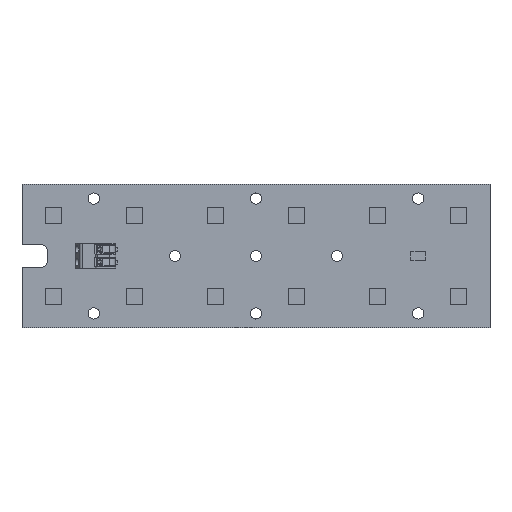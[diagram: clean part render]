
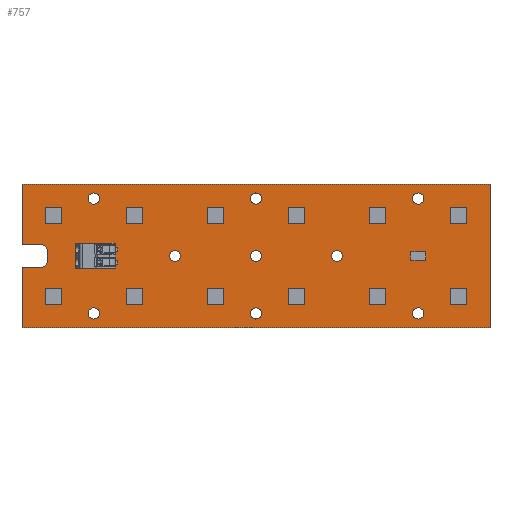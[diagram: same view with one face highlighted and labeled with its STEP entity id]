
A CAD part, top view. The second image highlights one B-rep face of the part: STEP entity #757.
In plain terms, the highlighted planar face has unit normal (0, 0, 1).
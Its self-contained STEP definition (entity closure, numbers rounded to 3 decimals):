
#108 = VERTEX_POINT('',#109);
#109 = CARTESIAN_POINT('',(-98.7,-22.5,1.6));
#115 = EDGE_CURVE('',#108,#116,#118,.T.);
#116 = VERTEX_POINT('',#117);
#117 = CARTESIAN_POINT('',(-98.7,-3.5,1.6));
#118 = LINE('',#119,#120);
#119 = CARTESIAN_POINT('',(-98.7,-22.5,1.6));
#120 = VECTOR('',#121,1.);
#121 = DIRECTION('',(0.,1.,0.));
#146 = EDGE_CURVE('',#116,#147,#149,.T.);
#147 = VERTEX_POINT('',#148);
#148 = CARTESIAN_POINT('',(-92.7,-3.5,1.6));
#149 = LINE('',#150,#151);
#150 = CARTESIAN_POINT('',(-98.7,-3.5,1.6));
#151 = VECTOR('',#152,1.);
#152 = DIRECTION('',(1.,0.,0.));
#177 = EDGE_CURVE('',#147,#178,#180,.T.);
#178 = VERTEX_POINT('',#179);
#179 = CARTESIAN_POINT('',(-90.7,-1.5,1.6));
#180 = CIRCLE('',#181,2.001);
#181 = AXIS2_PLACEMENT_3D('',#182,#183,#184);
#182 = CARTESIAN_POINT('',(-92.701,-1.499,1.6));
#183 = DIRECTION('',(0.,0.,1.));
#184 = DIRECTION('',(0.,-1.,0.));
#210 = EDGE_CURVE('',#178,#211,#213,.T.);
#211 = VERTEX_POINT('',#212);
#212 = CARTESIAN_POINT('',(-90.7,1.5,1.6));
#213 = LINE('',#214,#215);
#214 = CARTESIAN_POINT('',(-90.7,-1.5,1.6));
#215 = VECTOR('',#216,1.);
#216 = DIRECTION('',(0.,1.,0.));
#241 = EDGE_CURVE('',#211,#242,#244,.T.);
#242 = VERTEX_POINT('',#243);
#243 = CARTESIAN_POINT('',(-92.7,3.5,1.6));
#244 = CIRCLE('',#245,2.001);
#245 = AXIS2_PLACEMENT_3D('',#246,#247,#248);
#246 = CARTESIAN_POINT('',(-92.701,1.499,1.6));
#247 = DIRECTION('',(0.,0.,1.));
#248 = DIRECTION('',(1.,0.,-0.));
#274 = EDGE_CURVE('',#242,#275,#277,.T.);
#275 = VERTEX_POINT('',#276);
#276 = CARTESIAN_POINT('',(-98.7,3.5,1.6));
#277 = LINE('',#278,#279);
#278 = CARTESIAN_POINT('',(-92.7,3.5,1.6));
#279 = VECTOR('',#280,1.);
#280 = DIRECTION('',(-1.,0.,0.));
#305 = EDGE_CURVE('',#275,#306,#308,.T.);
#306 = VERTEX_POINT('',#307);
#307 = CARTESIAN_POINT('',(-98.7,22.5,1.6));
#308 = LINE('',#309,#310);
#309 = CARTESIAN_POINT('',(-98.7,3.5,1.6));
#310 = VECTOR('',#311,1.);
#311 = DIRECTION('',(0.,1.,0.));
#336 = EDGE_CURVE('',#306,#337,#339,.T.);
#337 = VERTEX_POINT('',#338);
#338 = CARTESIAN_POINT('',(47.9,22.5,1.6));
#339 = LINE('',#340,#341);
#340 = CARTESIAN_POINT('',(-98.7,22.5,1.6));
#341 = VECTOR('',#342,1.);
#342 = DIRECTION('',(1.,0.,0.));
#367 = EDGE_CURVE('',#337,#368,#370,.T.);
#368 = VERTEX_POINT('',#369);
#369 = CARTESIAN_POINT('',(47.9,-22.5,1.6));
#370 = LINE('',#371,#372);
#371 = CARTESIAN_POINT('',(47.9,22.5,1.6));
#372 = VECTOR('',#373,1.);
#373 = DIRECTION('',(0.,-1.,0.));
#398 = EDGE_CURVE('',#368,#108,#399,.T.);
#399 = LINE('',#400,#401);
#400 = CARTESIAN_POINT('',(47.9,-22.5,1.6));
#401 = VECTOR('',#402,1.);
#402 = DIRECTION('',(-1.,0.,0.));
#422 = VERTEX_POINT('',#423);
#423 = CARTESIAN_POINT('',(-74.45,-18.,1.6));
#429 = EDGE_CURVE('',#422,#422,#430,.T.);
#430 = CIRCLE('',#431,1.75);
#431 = AXIS2_PLACEMENT_3D('',#432,#433,#434);
#432 = CARTESIAN_POINT('',(-76.2,-18.,1.6));
#433 = DIRECTION('',(0.,0.,1.));
#434 = DIRECTION('',(1.,0.,-0.));
#455 = VERTEX_POINT('',#456);
#456 = CARTESIAN_POINT('',(-23.65,0.,1.6));
#462 = EDGE_CURVE('',#455,#455,#463,.T.);
#463 = CIRCLE('',#464,1.75);
#464 = AXIS2_PLACEMENT_3D('',#465,#466,#467);
#465 = CARTESIAN_POINT('',(-25.4,0.,1.6));
#466 = DIRECTION('',(0.,0.,1.));
#467 = DIRECTION('',(1.,0.,-0.));
#488 = VERTEX_POINT('',#489);
#489 = CARTESIAN_POINT('',(-74.45,18.,1.6));
#495 = EDGE_CURVE('',#488,#488,#496,.T.);
#496 = CIRCLE('',#497,1.75);
#497 = AXIS2_PLACEMENT_3D('',#498,#499,#500);
#498 = CARTESIAN_POINT('',(-76.2,18.,1.6));
#499 = DIRECTION('',(0.,0.,1.));
#500 = DIRECTION('',(1.,0.,-0.));
#521 = VERTEX_POINT('',#522);
#522 = CARTESIAN_POINT('',(-49.1,0.,1.6));
#528 = EDGE_CURVE('',#521,#521,#529,.T.);
#529 = CIRCLE('',#530,1.7);
#530 = AXIS2_PLACEMENT_3D('',#531,#532,#533);
#531 = CARTESIAN_POINT('',(-50.8,0.,1.6));
#532 = DIRECTION('',(0.,0.,1.));
#533 = DIRECTION('',(1.,0.,-0.));
#554 = VERTEX_POINT('',#555);
#555 = CARTESIAN_POINT('',(-23.65,-18.,1.6));
#561 = EDGE_CURVE('',#554,#554,#562,.T.);
#562 = CIRCLE('',#563,1.75);
#563 = AXIS2_PLACEMENT_3D('',#564,#565,#566);
#564 = CARTESIAN_POINT('',(-25.4,-18.,1.6));
#565 = DIRECTION('',(0.,0.,1.));
#566 = DIRECTION('',(1.,0.,-0.));
#587 = VERTEX_POINT('',#588);
#588 = CARTESIAN_POINT('',(27.15,-18.,1.6));
#594 = EDGE_CURVE('',#587,#587,#595,.T.);
#595 = CIRCLE('',#596,1.75);
#596 = AXIS2_PLACEMENT_3D('',#597,#598,#599);
#597 = CARTESIAN_POINT('',(25.4,-18.,1.6));
#598 = DIRECTION('',(0.,0.,1.));
#599 = DIRECTION('',(1.,0.,-0.));
#620 = VERTEX_POINT('',#621);
#621 = CARTESIAN_POINT('',(-23.65,18.,1.6));
#627 = EDGE_CURVE('',#620,#620,#628,.T.);
#628 = CIRCLE('',#629,1.75);
#629 = AXIS2_PLACEMENT_3D('',#630,#631,#632);
#630 = CARTESIAN_POINT('',(-25.4,18.,1.6));
#631 = DIRECTION('',(0.,0.,1.));
#632 = DIRECTION('',(1.,0.,-0.));
#653 = VERTEX_POINT('',#654);
#654 = CARTESIAN_POINT('',(1.7,0.,1.6));
#660 = EDGE_CURVE('',#653,#653,#661,.T.);
#661 = CIRCLE('',#662,1.7);
#662 = AXIS2_PLACEMENT_3D('',#663,#664,#665);
#663 = CARTESIAN_POINT('',(0.,0.,1.6));
#664 = DIRECTION('',(0.,0.,1.));
#665 = DIRECTION('',(1.,0.,-0.));
#686 = VERTEX_POINT('',#687);
#687 = CARTESIAN_POINT('',(27.15,18.,1.6));
#693 = EDGE_CURVE('',#686,#686,#694,.T.);
#694 = CIRCLE('',#695,1.75);
#695 = AXIS2_PLACEMENT_3D('',#696,#697,#698);
#696 = CARTESIAN_POINT('',(25.4,18.,1.6));
#697 = DIRECTION('',(0.,0.,1.));
#698 = DIRECTION('',(1.,0.,-0.));
#757 = ADVANCED_FACE('',(#758,#770,#773,#776,#779,#782,#785,#788,#791,
    #794),#797,.F.);
#758 = FACE_BOUND('',#759,.F.);
#759 = EDGE_LOOP('',(#760,#761,#762,#763,#764,#765,#766,#767,#768,#769)
  );
#760 = ORIENTED_EDGE('',*,*,#115,.T.);
#761 = ORIENTED_EDGE('',*,*,#146,.T.);
#762 = ORIENTED_EDGE('',*,*,#177,.T.);
#763 = ORIENTED_EDGE('',*,*,#210,.T.);
#764 = ORIENTED_EDGE('',*,*,#241,.T.);
#765 = ORIENTED_EDGE('',*,*,#274,.T.);
#766 = ORIENTED_EDGE('',*,*,#305,.T.);
#767 = ORIENTED_EDGE('',*,*,#336,.T.);
#768 = ORIENTED_EDGE('',*,*,#367,.T.);
#769 = ORIENTED_EDGE('',*,*,#398,.T.);
#770 = FACE_BOUND('',#771,.F.);
#771 = EDGE_LOOP('',(#772));
#772 = ORIENTED_EDGE('',*,*,#429,.T.);
#773 = FACE_BOUND('',#774,.F.);
#774 = EDGE_LOOP('',(#775));
#775 = ORIENTED_EDGE('',*,*,#462,.T.);
#776 = FACE_BOUND('',#777,.F.);
#777 = EDGE_LOOP('',(#778));
#778 = ORIENTED_EDGE('',*,*,#495,.T.);
#779 = FACE_BOUND('',#780,.F.);
#780 = EDGE_LOOP('',(#781));
#781 = ORIENTED_EDGE('',*,*,#528,.T.);
#782 = FACE_BOUND('',#783,.F.);
#783 = EDGE_LOOP('',(#784));
#784 = ORIENTED_EDGE('',*,*,#561,.T.);
#785 = FACE_BOUND('',#786,.F.);
#786 = EDGE_LOOP('',(#787));
#787 = ORIENTED_EDGE('',*,*,#594,.T.);
#788 = FACE_BOUND('',#789,.F.);
#789 = EDGE_LOOP('',(#790));
#790 = ORIENTED_EDGE('',*,*,#627,.T.);
#791 = FACE_BOUND('',#792,.F.);
#792 = EDGE_LOOP('',(#793));
#793 = ORIENTED_EDGE('',*,*,#660,.T.);
#794 = FACE_BOUND('',#795,.F.);
#795 = EDGE_LOOP('',(#796));
#796 = ORIENTED_EDGE('',*,*,#693,.T.);
#797 = PLANE('',#798);
#798 = AXIS2_PLACEMENT_3D('',#799,#800,#801);
#799 = CARTESIAN_POINT('',(-27.757,0.,1.6));
#800 = DIRECTION('',(-0.,-0.,-1.));
#801 = DIRECTION('',(-1.,0.,0.));
